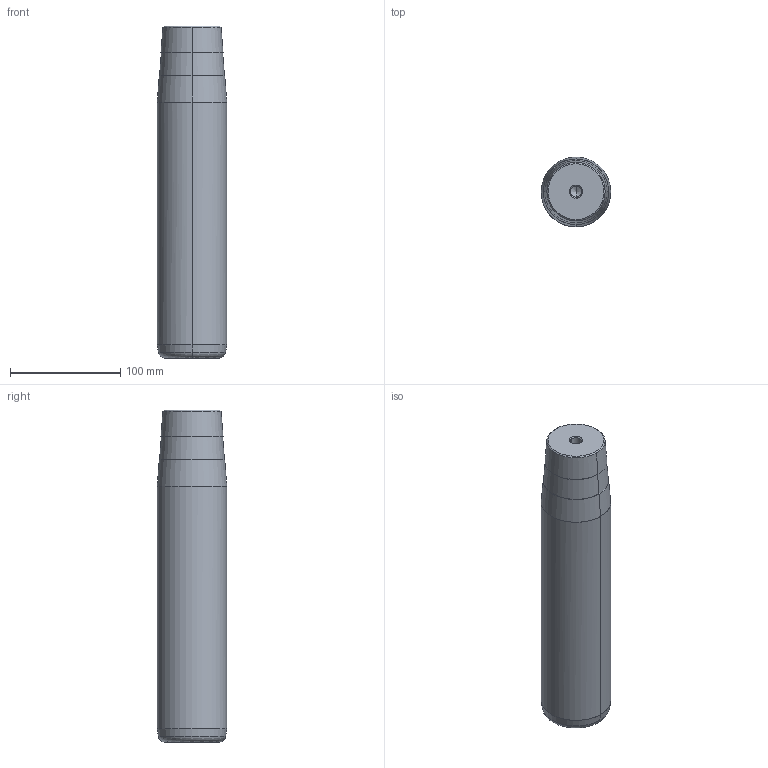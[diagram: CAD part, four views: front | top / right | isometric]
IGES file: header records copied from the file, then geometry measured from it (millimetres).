
Start section: START RECORD GO HERE.
Global section: file name: 722-63x250x301.igs; native system: DASSAULT SYSTEMES CATIA V5 R20 - www.3ds.com; preprocessor: CATIA Version 5 Release 20 ; author: Utente; organization: NB04-ASUS; date: 20210107.202309; units: millimetre
Bounding box: 63 x 63 x 301 mm (x, y, z)
Surface area: 64822.4 mm2 (no closed solid volume)
Topology: 0 solids, 0 shells, 32 faces, 192 edges, 188 vertices
Faces by surface type: revolution 30, plane 2
